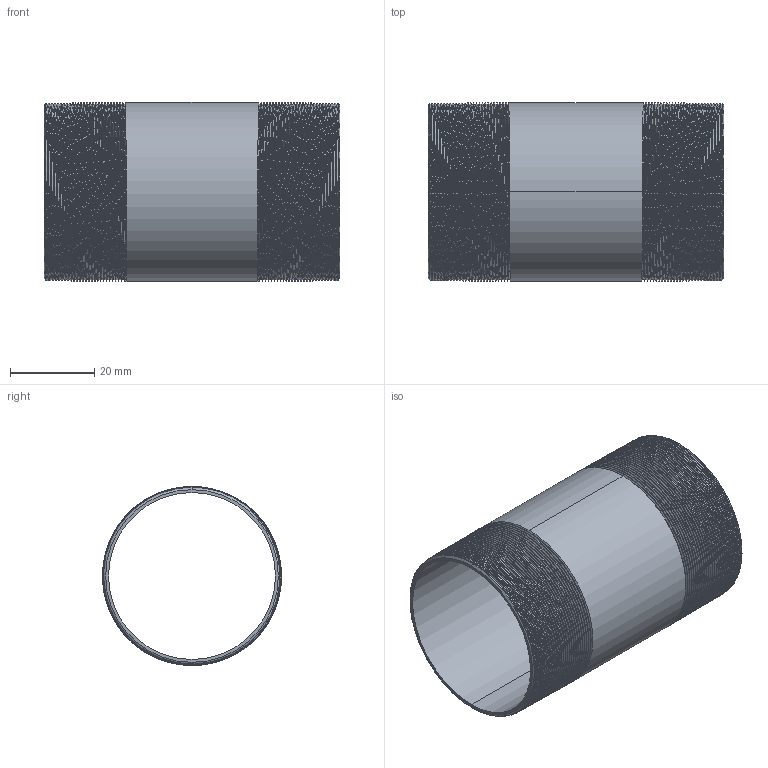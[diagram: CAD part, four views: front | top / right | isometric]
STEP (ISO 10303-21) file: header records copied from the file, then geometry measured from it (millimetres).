
FILE_DESCRIPTION (( 'STEP AP203' ), '1' );
FILE_NAME ('3D_R210_1 1-4x70_17148570.STEP', '2024-08-16T10:02:35', ( '' ), ( '' ), 'SwSTEP 2.0', 'SolidWorks 2024', '' );
FILE_SCHEMA (( 'CONFIG_CONTROL_DESIGN' ));
Length unit declared in the file: millimetre
Products named in the file (1): 3D_R210_1 1-4x70_17148570
Bounding box: 70 x 42.39 x 42.4 mm (x, y, z)
Volume: 11570.4 mm3; surface area: 20606.7 mm2
Topology: 1 solids, 1 shells, 128 faces, 370 edges, 244 vertices
Faces by surface type: cone 114, bspline 6, cylinder 4, plane 4
Entity records: 21255 total; most frequent: CARTESIAN_POINT 18295, ORIENTED_EDGE 740, DIRECTION 394, EDGE_CURVE 370, VERTEX_POINT 244, B_SPLINE_CURVE_WITH_KNOTS 226, AXIS2_PLACEMENT_3D 135, EDGE_LOOP 130
